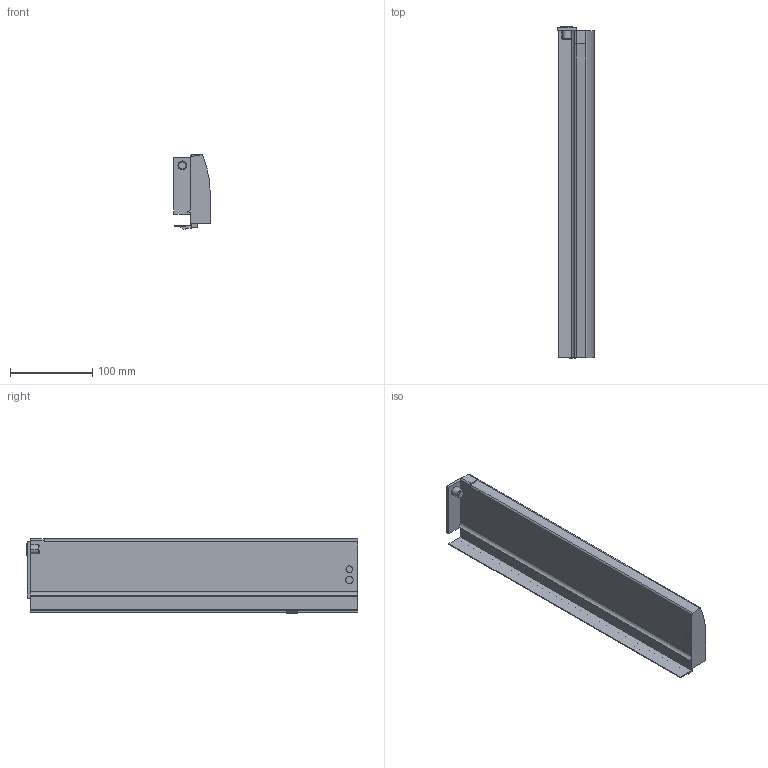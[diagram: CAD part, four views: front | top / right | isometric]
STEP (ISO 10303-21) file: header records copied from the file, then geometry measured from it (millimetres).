
FILE_DESCRIPTION (( 'STEP AP214' ), '1' );
FILE_NAME ('_IMOS_NOVA-Pro_Dekor-H90_DL_NL400_RE.step', '2010-07-06T09:14:07', ( 'grass' ), ( '' ), 'SwSTEP 2.0', 'SolidWorks 2009', '' );
FILE_SCHEMA (( 'AUTOMOTIVE_DESIGN' ));
Length unit declared in the file: millimetre
Products named in the file (1): _IMOS_NOVA-Pro_Dekor-H90_DL_NL400_RE
Bounding box: 44.3 x 402.7 x 90.49 mm (x, y, z)
Volume: 439867.2 mm3; surface area: 138952.9 mm2
Topology: 1 solids, 1 shells, 69 faces, 182 edges, 120 vertices
Faces by surface type: plane 47, cylinder 17, cone 4, bspline 1
Entity records: 2168 total; most frequent: CARTESIAN_POINT 393, ORIENTED_EDGE 364, DIRECTION 357, EDGE_CURVE 182, LINE 141, VECTOR 141, VERTEX_POINT 120, AXIS2_PLACEMENT_3D 108
